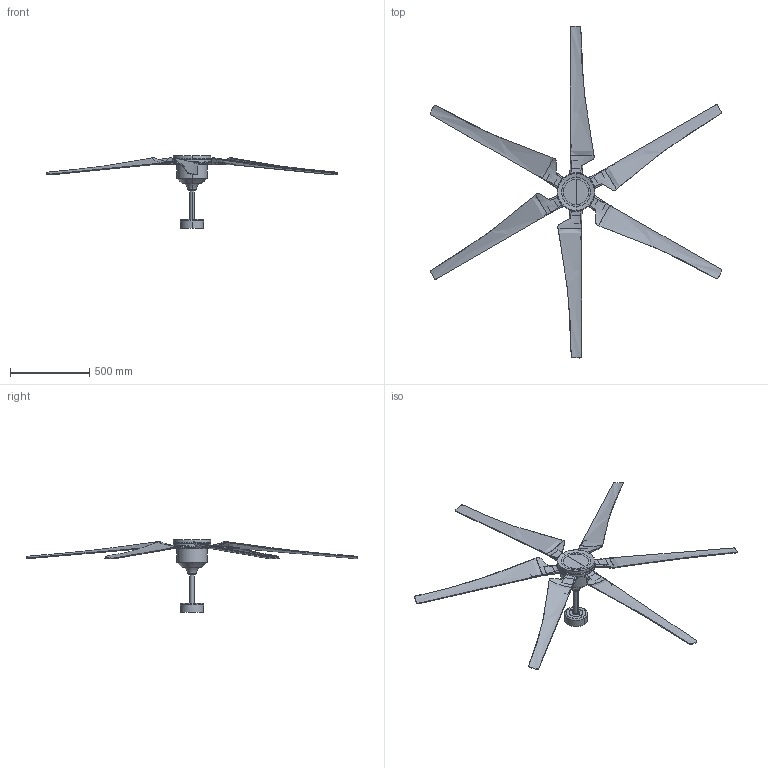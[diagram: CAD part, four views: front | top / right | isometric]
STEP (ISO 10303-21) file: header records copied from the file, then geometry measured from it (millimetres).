
FILE_DESCRIPTION(/* description */ (''),/* implementation_level */ '2;1');
FILE_NAME(/* name */ 'C:\Users\FrancoSartori\Documents\FARO\01_En Proceso\00_CIES\03_Publicación\33512.stp',/* time_stamp */ '2021-05-17T13:14:59+02:00',/* author */ ('FrancoSartori'),/* organization */ (''),/* preprocessor_version */ 'ST-DEVELOPER v18.1',/* originating_system */ 'AutoCAD Mechanical',/* authorisation */ '');
FILE_SCHEMA (('AUTOMOTIVE_DESIGN { 1 0 10303 214 3 1 1 }'));
Length unit declared in the file: millimetre
Products named in the file (3): Product; 33512_ 33512-1_ 33512WP_ 33512WP-1_ - LANTAU-459419-Export; 33463_33505_LANTAU_lamp - LANTAU-457694-Export
Assembly tree (2 placements, depth 2):
  Product
    33512_ 33512-1_ 33512WP_ 33512WP-1_ - LANTAU-459419-Export
    33463_33505_LANTAU_lamp - LANTAU-457694-Export
Bounding box: 1838.59 x 2091.43 x 459.01 mm (x, y, z)
Volume: 9460160.4 mm3; surface area: 2018966.4 mm2
Topology: 39 solids, 39 shells, 574 faces, 1402 edges, 902 vertices
Faces by surface type: plane 226, cylinder 194, bspline 104, torus 40, cone 6, sphere 4
Entity records: 28317 total; most frequent: CARTESIAN_POINT 15902, ORIENTED_EDGE 2804, DIRECTION 2036, EDGE_CURVE 1402, VERTEX_POINT 902, AXIS2_PLACEMENT_3D 739, EDGE_LOOP 622, B_SPLINE_CURVE_WITH_KNOTS 580
